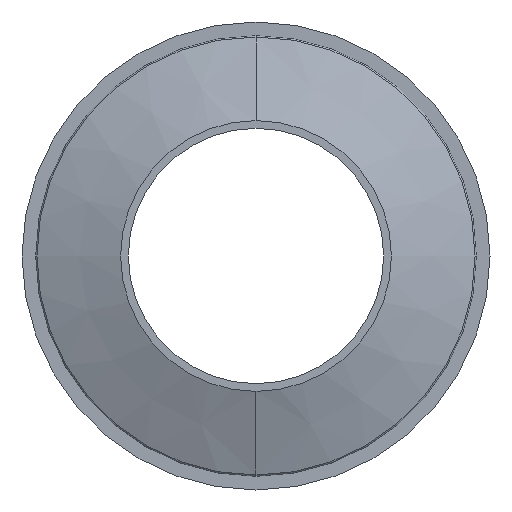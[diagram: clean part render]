
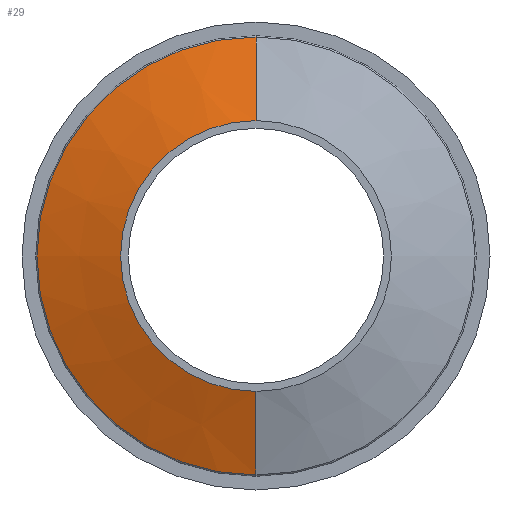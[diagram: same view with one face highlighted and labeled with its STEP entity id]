
A CAD part, left-side view. The second image highlights one B-rep face of the part: STEP entity #29.
In plain terms, the highlighted conical face has half-angle 70 degrees and reference radius 56.634 mm.
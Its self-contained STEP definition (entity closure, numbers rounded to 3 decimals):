
#5 = VERTEX_POINT ( 'NONE', #170 ) ;
#17 = CIRCLE ( 'NONE', #342, 35. ) ;
#29 = ADVANCED_FACE ( 'NONE', ( #382 ), #373, .T. ) ;
#52 = DIRECTION ( 'NONE',  ( 0.342, 0., 0.94 ) ) ;
#62 = DIRECTION ( 'NONE',  ( -1., 0., 0. ) ) ;
#80 = CARTESIAN_POINT ( 'NONE',  ( -16.219, 0., 0. ) ) ;
#94 = DIRECTION ( 'NONE',  ( 0., 0., 1. ) ) ;
#111 = LINE ( 'NONE', #401, #331 ) ;
#137 = DIRECTION ( 'NONE',  ( 1., 0., 0. ) ) ;
#168 = DIRECTION ( 'NONE',  ( 0., 0., -1. ) ) ;
#170 = CARTESIAN_POINT ( 'NONE',  ( -8.345, 0., 56.634 ) ) ;
#173 = ORIENTED_EDGE ( 'NONE', *, *, #375, .T. ) ;
#182 = CARTESIAN_POINT ( 'NONE',  ( -16.219, 0., -35. ) ) ;
#202 = DIRECTION ( 'NONE',  ( -1., 0., 0. ) ) ;
#243 = EDGE_CURVE ( 'NONE', #473, #298, #111, .T. ) ;
#249 = DIRECTION ( 'NONE',  ( 0.342, 0., -0.94 ) ) ;
#252 = VECTOR ( 'NONE', #52, 1000. ) ;
#258 = AXIS2_PLACEMENT_3D ( 'NONE', #267, #62, #94 ) ;
#266 = EDGE_LOOP ( 'NONE', ( #497, #383, #173, #515 ) ) ;
#267 = CARTESIAN_POINT ( 'NONE',  ( -8.345, 0., 0. ) ) ;
#298 = VERTEX_POINT ( 'NONE', #416 ) ;
#315 = CARTESIAN_POINT ( 'NONE',  ( -16.219, 0., 35. ) ) ;
#324 = EDGE_CURVE ( 'NONE', #495, #473, #17, .T. ) ;
#331 = VECTOR ( 'NONE', #249, 1000. ) ;
#342 = AXIS2_PLACEMENT_3D ( 'NONE', #80, #202, #367 ) ;
#347 = CARTESIAN_POINT ( 'NONE',  ( -8.345, 0., 56.634 ) ) ;
#367 = DIRECTION ( 'NONE',  ( 0., 0., 1. ) ) ;
#373 = CONICAL_SURFACE ( 'NONE', #397, 56.634, 1.222 ) ;
#375 = EDGE_CURVE ( 'NONE', #5, #298, #468, .T. ) ;
#379 = CARTESIAN_POINT ( 'NONE',  ( -8.345, 0., 0. ) ) ;
#382 = FACE_OUTER_BOUND ( 'NONE', #266, .T. ) ;
#383 = ORIENTED_EDGE ( 'NONE', *, *, #481, .T. ) ;
#397 = AXIS2_PLACEMENT_3D ( 'NONE', #379, #137, #168 ) ;
#401 = CARTESIAN_POINT ( 'NONE',  ( -8.345, 0., -56.634 ) ) ;
#416 = CARTESIAN_POINT ( 'NONE',  ( -8.345, 0., -56.634 ) ) ;
#419 = LINE ( 'NONE', #347, #252 ) ;
#468 = CIRCLE ( 'NONE', #258, 56.634 ) ;
#473 = VERTEX_POINT ( 'NONE', #182 ) ;
#481 = EDGE_CURVE ( 'NONE', #495, #5, #419, .T. ) ;
#495 = VERTEX_POINT ( 'NONE', #315 ) ;
#497 = ORIENTED_EDGE ( 'NONE', *, *, #324, .F. ) ;
#515 = ORIENTED_EDGE ( 'NONE', *, *, #243, .F. ) ;
